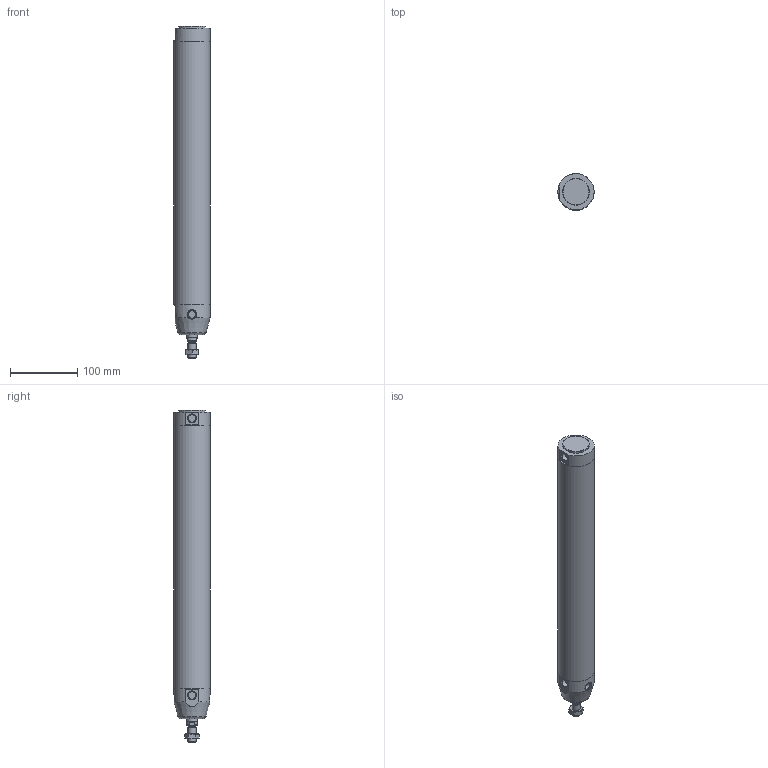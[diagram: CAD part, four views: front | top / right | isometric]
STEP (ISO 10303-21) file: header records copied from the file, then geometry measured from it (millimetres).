
FILE_DESCRIPTION(/* description */ (''),/* implementation_level */ '2;1');
FILE_NAME(/* name */ 'I:\Area Tecnica\Documenti\A-Manieri\_Inventor\12X\12X#E_###_####_#_#\12XAE_050_0350_#_#.stp',/* time_stamp */ '2015-05-08T13:40:48+02:00',/* author */ ('maniean1'),/* organization */ ('Pneumax S.p.A.'),/* preprocessor_version */ 'ST-DEVELOPER v15.2',/* originating_system */ 'Autodesk Inventor 2014',/* authorisation */ '');
FILE_SCHEMA (('AUTOMOTIVE_DESIGN { 1 0 10303 214 3 1 1 }'));
Length unit declared in the file: millimetre
Products named in the file (6): C1250_619-0350; 12X50_622; S12X50_0350; 12X_50_11; 12X50_611; 12XAE_050_0350_#_#
Bounding box: 54 x 54 x 495 mm (x, y, z)
Volume: 423424.9 mm3; surface area: 183530.5 mm2
Topology: 5 solids, 5 shells, 65 faces, 132 edges, 84 vertices
Faces by surface type: plane 33, cylinder 18, cone 13, torus 1
Full cylindrical faces by diameter (mm): 10.2 x1, 10.9 x2, 11.4 x2, 12 x2, 14 x1, 14.1 x2, 15.6 x1, 16 x1, 40 x1, 50 x2, 54 x3
Entity records: 1691 total; most frequent: CARTESIAN_POINT 368, DIRECTION 279, ORIENTED_EDGE 190, AXIS2_PLACEMENT_3D 129, EDGE_LOOP 108, EDGE_CURVE 95, VERTEX_POINT 77, ADVANCED_FACE 65
